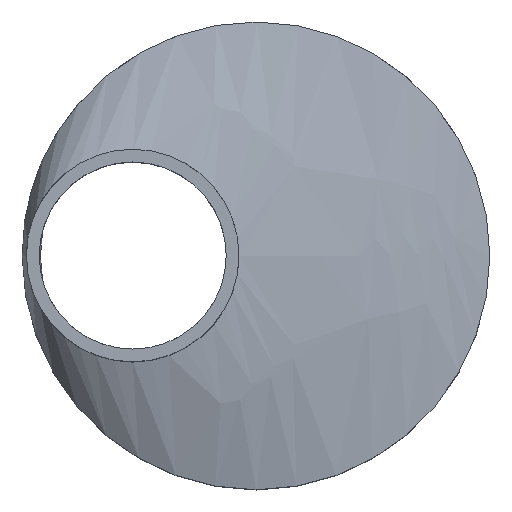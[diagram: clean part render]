
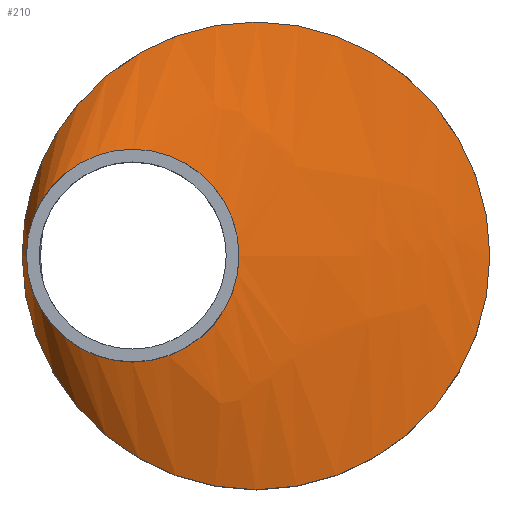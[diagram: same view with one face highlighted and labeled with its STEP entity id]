
A CAD part, top view. The second image highlights one B-rep face of the part: STEP entity #210.
In plain terms, the highlighted free-form (B-spline) face has degree [1, 2] with [2, 9] control points.
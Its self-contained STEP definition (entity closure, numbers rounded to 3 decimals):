
#15=B_SPLINE_CURVE_WITH_KNOTS($,1,(#401,#402),.UNSPECIFIED.,.F.,.F.,(2,
2),(-0.615,0.),.UNSPECIFIED.);
#17=(
BOUNDED_SURFACE()
B_SPLINE_SURFACE(1,2,((#379,#380,#381,#382,#383,#384,#385,#386,#387),(#388,
#389,#390,#391,#392,#393,#394,#395,#396)),.UNSPECIFIED.,.F.,.T.,.F.)
B_SPLINE_SURFACE_WITH_KNOTS((2,2),(3,2,2,2,3),(-3.597,0.843),
(-3.142,-1.571,0.,1.571,3.142),
 .UNSPECIFIED.)
GEOMETRIC_REPRESENTATION_ITEM()
RATIONAL_B_SPLINE_SURFACE(((1.,0.707,1.,0.707,1.,
0.707,1.,0.707,1.),(1.,0.707,1.,0.707,
1.,0.707,1.,0.707,1.)))
REPRESENTATION_ITEM($)
SURFACE()
);
#47=FACE_OUTER_BOUND($,#67,.T.);
#67=EDGE_LOOP($,(#167,#168,#169,#170,#171,#172));
#83=CIRCLE($,#231,55.);
#84=CIRCLE($,#232,55.);
#93=CIRCLE($,#243,25.);
#94=CIRCLE($,#244,25.);
#103=VERTEX_POINT($,#337);
#104=VERTEX_POINT($,#338);
#113=VERTEX_POINT($,#397);
#114=VERTEX_POINT($,#398);
#123=EDGE_CURVE($,#103,#104,#83,.T.);
#124=EDGE_CURVE($,#104,#103,#84,.T.);
#134=EDGE_CURVE($,#113,#114,#93,.T.);
#135=EDGE_CURVE($,#114,#113,#94,.T.);
#136=EDGE_CURVE($,#114,#104,#15,.T.);
#167=ORIENTED_EDGE($,*,*,#134,.F.);
#168=ORIENTED_EDGE($,*,*,#135,.F.);
#169=ORIENTED_EDGE($,*,*,#136,.T.);
#170=ORIENTED_EDGE($,*,*,#123,.F.);
#171=ORIENTED_EDGE($,*,*,#124,.F.);
#172=ORIENTED_EDGE($,*,*,#136,.F.);
#210=ADVANCED_FACE($,(#47),#17,.F.);
#231=AXIS2_PLACEMENT_3D($,#339,#278,#279);
#232=AXIS2_PLACEMENT_3D($,#340,#280,#281);
#243=AXIS2_PLACEMENT_3D($,#399,#302,#303);
#244=AXIS2_PLACEMENT_3D($,#400,#304,#305);
#278=DIRECTION('center_axis',(0.,0.,-1.));
#279=DIRECTION('ref_axis',(-1.,0.,0.));
#280=DIRECTION('center_axis',(0.,0.,-1.));
#281=DIRECTION('ref_axis',(-1.,0.,0.));
#302=DIRECTION('center_axis',(0.,0.,1.));
#303=DIRECTION('ref_axis',(-1.,0.,0.));
#304=DIRECTION('center_axis',(0.,0.,1.));
#305=DIRECTION('ref_axis',(-1.,0.,0.));
#337=CARTESIAN_POINT('',(55.,0.,37.));
#338=CARTESIAN_POINT('',(-41.881,35.65,37.));
#339=CARTESIAN_POINT('Origin',(0.,0.,37.));
#340=CARTESIAN_POINT('Origin',(0.,0.,37.));
#379=CARTESIAN_POINT('Ctrl Pts',(-5.853,149.465,-9.823));
#380=CARTESIAN_POINT('Ctrl Pts',(-66.706,149.465,-56.647));
#381=CARTESIAN_POINT('Ctrl Pts',(-66.706,0.,
-56.647));
#382=CARTESIAN_POINT('Ctrl Pts',(-66.706,-149.465,-56.647));
#383=CARTESIAN_POINT('Ctrl Pts',(-5.853,-149.465,-9.823));
#384=CARTESIAN_POINT('Ctrl Pts',(55.,-149.465,37.));
#385=CARTESIAN_POINT('Ctrl Pts',(55.,0.,37.));
#386=CARTESIAN_POINT('Ctrl Pts',(55.,149.465,37.));
#387=CARTESIAN_POINT('Ctrl Pts',(-5.853,149.465,-9.823));
#388=CARTESIAN_POINT('Ctrl Pts',(-50.328,8.968,47.977));
#389=CARTESIAN_POINT('Ctrl Pts',(-53.979,8.968,45.168));
#390=CARTESIAN_POINT('Ctrl Pts',(-53.979,0.,45.168));
#391=CARTESIAN_POINT('Ctrl Pts',(-53.979,-8.968,45.168));
#392=CARTESIAN_POINT('Ctrl Pts',(-50.328,-8.968,47.977));
#393=CARTESIAN_POINT('Ctrl Pts',(-46.677,-8.968,50.787));
#394=CARTESIAN_POINT('Ctrl Pts',(-46.677,0.,50.787));
#395=CARTESIAN_POINT('Ctrl Pts',(-46.677,8.968,50.787));
#396=CARTESIAN_POINT('Ctrl Pts',(-50.328,8.968,47.977));
#397=CARTESIAN_POINT('',(-4.,0.,45.));
#398=CARTESIAN_POINT('',(-48.037,16.205,45.));
#399=CARTESIAN_POINT('Origin',(-29.,0.,45.));
#400=CARTESIAN_POINT('Origin',(-29.,0.,45.));
#401=CARTESIAN_POINT('Ctrl Pts',(-48.037,16.205,45.));
#402=CARTESIAN_POINT('Ctrl Pts',(-41.881,35.65,37.));
